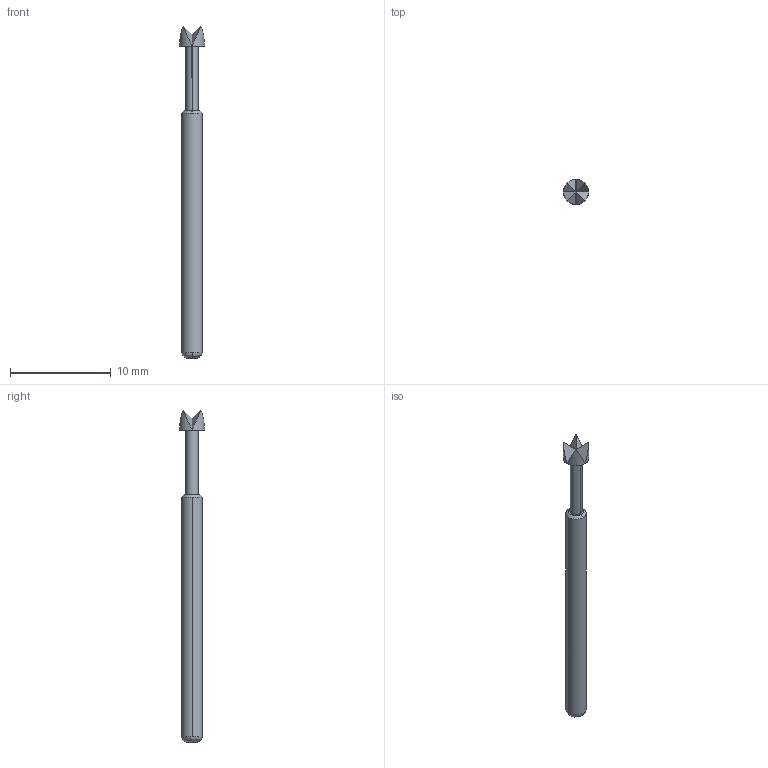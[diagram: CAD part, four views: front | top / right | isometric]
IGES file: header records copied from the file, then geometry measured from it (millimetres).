
Start section: SolidWorks IGES file using analytic representation for surfaces
Global section: file name: \\CODA-VM-SBS\RedirectedFolders\georged\My Documents\CODA CAD FILES\GENERAL PURPOSE TEST PROBES\MEDIUM REACH TEST PROBES\PA5 SERIES\PA5Q.IGS; native system: SolidWorks 2024; preprocessor: SolidWorks 2024; author: GeorgeD; date: 240904.150118; units: millimetre
Bounding box: 2.5 x 2.5 x 33 mm (x, y, z)
Surface area: 206.2 mm2 (no closed solid volume)
Topology: 0 solids, 0 shells, 25 faces, 246 edges, 246 vertices
Faces by surface type: bspline 17, revolution 8
